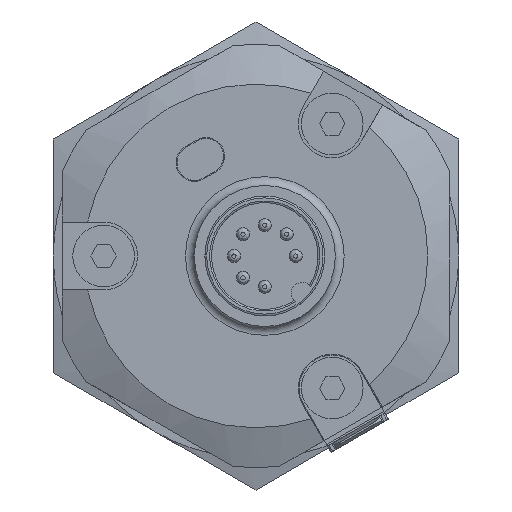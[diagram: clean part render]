
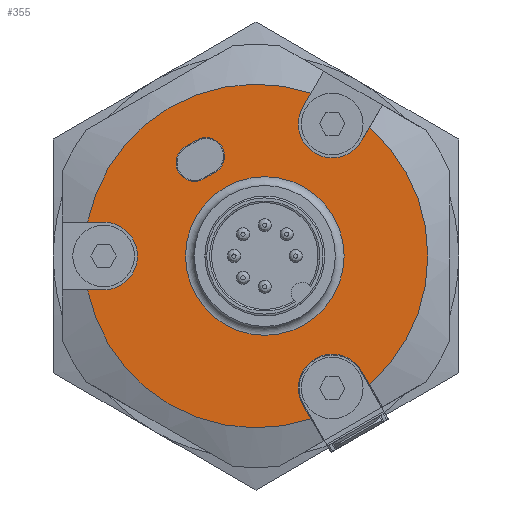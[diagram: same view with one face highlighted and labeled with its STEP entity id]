
A CAD part, left-side view. The second image highlights one B-rep face of the part: STEP entity #355.
In plain terms, the highlighted planar face has unit normal (-1, 0, 0).
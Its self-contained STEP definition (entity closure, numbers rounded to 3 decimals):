
#355 = ADVANCED_FACE( '', ( #789, #790, #791 ), #792, .F. );
#789 = FACE_OUTER_BOUND( '', #1469, .T. );
#790 = FACE_BOUND( '', #1470, .T. );
#791 = FACE_BOUND( '', #1471, .T. );
#792 = PLANE( '', #1472 );
#1469 = EDGE_LOOP( '', ( #2843, #2844, #2845, #2846, #2847, #2848, #2849, #2850, #2851, #2852, #2853, #2854 ) );
#1470 = EDGE_LOOP( '', ( #2855 ) );
#1471 = EDGE_LOOP( '', ( #2856, #2857, #2858, #2859 ) );
#1472 = AXIS2_PLACEMENT_3D( '', #2860, #2861, #2862 );
#2843 = ORIENTED_EDGE( '', *, *, #3200, .T. );
#2844 = ORIENTED_EDGE( '', *, *, #3204, .T. );
#2845 = ORIENTED_EDGE( '', *, *, #3309, .F. );
#2846 = ORIENTED_EDGE( '', *, *, #2911, .T. );
#2847 = ORIENTED_EDGE( '', *, *, #2905, .T. );
#2848 = ORIENTED_EDGE( '', *, *, #2901, .T. );
#2849 = ORIENTED_EDGE( '', *, *, #3310, .F. );
#2850 = ORIENTED_EDGE( '', *, *, #2922, .T. );
#2851 = ORIENTED_EDGE( '', *, *, #2917, .T. );
#2852 = ORIENTED_EDGE( '', *, *, #3207, .T. );
#2853 = ORIENTED_EDGE( '', *, *, #3308, .F. );
#2854 = ORIENTED_EDGE( '', *, *, #3030, .T. );
#2855 = ORIENTED_EDGE( '', *, *, #3277, .T. );
#2856 = ORIENTED_EDGE( '', *, *, #3246, .T. );
#2857 = ORIENTED_EDGE( '', *, *, #3250, .T. );
#2858 = ORIENTED_EDGE( '', *, *, #3253, .T. );
#2859 = ORIENTED_EDGE( '', *, *, #3256, .T. );
#2860 = CARTESIAN_POINT( '', ( -68., 0., 0. ) );
#2861 = DIRECTION( '', ( 1., 0., 0. ) );
#2862 = DIRECTION( '', ( 0., 0., -1. ) );
#2901 = EDGE_CURVE( '', #3338, #3336, #3339, .T. );
#2905 = EDGE_CURVE( '', #3345, #3338, #3346, .T. );
#2911 = EDGE_CURVE( '', #3350, #3345, #3356, .T. );
#2917 = EDGE_CURVE( '', #3367, #3368, #3369, .T. );
#2922 = EDGE_CURVE( '', #3372, #3367, #3376, .T. );
#3030 = EDGE_CURVE( '', #3568, #3566, #3569, .T. );
#3200 = EDGE_CURVE( '', #3566, #3839, #3840, .T. );
#3204 = EDGE_CURVE( '', #3839, #3844, #3846, .T. );
#3207 = EDGE_CURVE( '', #3368, #3848, #3850, .T. );
#3246 = EDGE_CURVE( '', #3909, #3910, #3911, .T. );
#3250 = EDGE_CURVE( '', #3910, #3917, #3918, .T. );
#3253 = EDGE_CURVE( '', #3917, #3922, #3923, .T. );
#3256 = EDGE_CURVE( '', #3922, #3909, #3927, .T. );
#3277 = EDGE_CURVE( '', #3964, #3964, #3965, .T. );
#3308 = EDGE_CURVE( '', #3568, #3848, #4020, .T. );
#3309 = EDGE_CURVE( '', #3350, #3844, #4021, .T. );
#3310 = EDGE_CURVE( '', #3372, #3336, #4022, .T. );
#3336 = VERTEX_POINT( '', #4068 );
#3338 = VERTEX_POINT( '', #4073 );
#3339 = LINE( '', #4074, #4075 );
#3345 = VERTEX_POINT( '', #4084 );
#3346 = CIRCLE( '', #4085, 3.85 );
#3350 = VERTEX_POINT( '', #4090 );
#3356 = LINE( '', #4101, #4102 );
#3367 = VERTEX_POINT( '', #4116 );
#3368 = VERTEX_POINT( '', #4117 );
#3369 = CIRCLE( '', #4118, 3.85 );
#3372 = VERTEX_POINT( '', #4123 );
#3376 = LINE( '', #4131, #4132 );
#3566 = VERTEX_POINT( '', #4427 );
#3568 = VERTEX_POINT( '', #4430 );
#3569 = LINE( '', #4431, #4432 );
#3839 = VERTEX_POINT( '', #4921 );
#3840 = CIRCLE( '', #4922, 3.85 );
#3844 = VERTEX_POINT( '', #4927 );
#3846 = LINE( '', #4932, #4933 );
#3848 = VERTEX_POINT( '', #4936 );
#3850 = LINE( '', #4941, #4942 );
#3909 = VERTEX_POINT( '', #5037 );
#3910 = VERTEX_POINT( '', #5038 );
#3911 = LINE( '', #5039, #5040 );
#3917 = VERTEX_POINT( '', #5049 );
#3918 = CIRCLE( '', #5050, 2.1 );
#3922 = VERTEX_POINT( '', #5055 );
#3923 = LINE( '', #5056, #5057 );
#3927 = CIRCLE( '', #5063, 2.1 );
#3964 = VERTEX_POINT( '', #5102 );
#3965 = CIRCLE( '', #5103, 9. );
#4020 = CIRCLE( '', #5164, 19.5 );
#4021 = CIRCLE( '', #5165, 19.5 );
#4022 = CIRCLE( '', #5166, 19.5 );
#4068 = CARTESIAN_POINT( '', ( -68., -12.892, -14.63 ) );
#4073 = CARTESIAN_POINT( '', ( -68., -11.984, -13.057 ) );
#4074 = CARTESIAN_POINT( '', ( -68., -11.984, -13.057 ) );
#4075 = VECTOR( '', #5185, 1000. );
#4084 = CARTESIAN_POINT( '', ( -68., -5.316, -16.907 ) );
#4085 = AXIS2_PLACEMENT_3D( '', #5189, #5190, #5191 );
#4090 = CARTESIAN_POINT( '', ( -68., -6.224, -18.48 ) );
#4101 = CARTESIAN_POINT( '', ( -68., -7.916, -21.411 ) );
#4102 = VECTOR( '', #5198, 1000. );
#4116 = CARTESIAN_POINT( '', ( -68., -11.984, 13.057 ) );
#4117 = CARTESIAN_POINT( '', ( -68., -5.316, 16.907 ) );
#4118 = AXIS2_PLACEMENT_3D( '', #5208, #5209, #5210 );
#4123 = CARTESIAN_POINT( '', ( -68., -12.892, 14.63 ) );
#4131 = CARTESIAN_POINT( '', ( -68., -14.584, 17.561 ) );
#4132 = VECTOR( '', #5214, 1000. );
#4427 = CARTESIAN_POINT( '', ( -68., 17.3, 3.85 ) );
#4430 = CARTESIAN_POINT( '', ( -68., 19.116, 3.85 ) );
#4431 = CARTESIAN_POINT( '', ( -68., 22.5, 3.85 ) );
#4432 = VECTOR( '', #5373, 1000. );
#4921 = CARTESIAN_POINT( '', ( -68., 17.3, -3.85 ) );
#4922 = AXIS2_PLACEMENT_3D( '', #5624, #5625, #5626 );
#4927 = CARTESIAN_POINT( '', ( -68., 19.116, -3.85 ) );
#4932 = CARTESIAN_POINT( '', ( -68., 17.3, -3.85 ) );
#4933 = VECTOR( '', #5631, 1000. );
#4936 = CARTESIAN_POINT( '', ( -68., -6.224, 18.48 ) );
#4941 = CARTESIAN_POINT( '', ( -68., -5.316, 16.907 ) );
#4942 = VECTOR( '', #5633, 1000. );
#5037 = CARTESIAN_POINT( '', ( -68., 8.025, 12.399 ) );
#5038 = CARTESIAN_POINT( '', ( -68., 6.725, 13.149 ) );
#5039 = CARTESIAN_POINT( '', ( -68., 8.025, 12.399 ) );
#5040 = VECTOR( '', #5676, 1000. );
#5049 = CARTESIAN_POINT( '', ( -68., 4.625, 9.512 ) );
#5050 = AXIS2_PLACEMENT_3D( '', #5680, #5681, #5682 );
#5055 = CARTESIAN_POINT( '', ( -68., 5.925, 8.762 ) );
#5056 = CARTESIAN_POINT( '', ( -68., 4.625, 9.512 ) );
#5057 = VECTOR( '', #5687, 1000. );
#5063 = AXIS2_PLACEMENT_3D( '', #5690, #5691, #5692 );
#5102 = CARTESIAN_POINT( '', ( -68., -1., -9. ) );
#5103 = AXIS2_PLACEMENT_3D( '', #5749, #5750, #5751 );
#5164 = AXIS2_PLACEMENT_3D( '', #5827, #5828, #5829 );
#5165 = AXIS2_PLACEMENT_3D( '', #5830, #5831, #5832 );
#5166 = AXIS2_PLACEMENT_3D( '', #5833, #5834, #5835 );
#5185 = DIRECTION( '', ( 0., -0.5, -0.866 ) );
#5189 = CARTESIAN_POINT( '', ( -68., -8.65, -14.982 ) );
#5190 = DIRECTION( '', ( 1., 0., 0. ) );
#5191 = DIRECTION( '', ( 0., 0., -1. ) );
#5198 = DIRECTION( '', ( 0., 0.5, 0.866 ) );
#5208 = CARTESIAN_POINT( '', ( -68., -8.65, 14.982 ) );
#5209 = DIRECTION( '', ( 1., 0., 0. ) );
#5210 = DIRECTION( '', ( 0., 0., -1. ) );
#5214 = DIRECTION( '', ( 0., 0.5, -0.866 ) );
#5373 = DIRECTION( '', ( 0., -1., 0. ) );
#5624 = CARTESIAN_POINT( '', ( -68., 17.3, 0. ) );
#5625 = DIRECTION( '', ( 1., 0., 0. ) );
#5626 = DIRECTION( '', ( 0., 0., -1. ) );
#5631 = DIRECTION( '', ( 0., 1., 0. ) );
#5633 = DIRECTION( '', ( 0., -0.5, 0.866 ) );
#5676 = DIRECTION( '', ( 0., -0.866, 0.5 ) );
#5680 = CARTESIAN_POINT( '', ( -68., 5.675, 11.33 ) );
#5681 = DIRECTION( '', ( 1., 0., 0. ) );
#5682 = DIRECTION( '', ( 0., 0., -1. ) );
#5687 = DIRECTION( '', ( 0., 0.866, -0.5 ) );
#5690 = CARTESIAN_POINT( '', ( -68., 6.975, 10.58 ) );
#5691 = DIRECTION( '', ( 1., 0., 0. ) );
#5692 = DIRECTION( '', ( 0., 0., -1. ) );
#5749 = CARTESIAN_POINT( '', ( -68., -1., 0. ) );
#5750 = DIRECTION( '', ( 1., 0., 0. ) );
#5751 = DIRECTION( '', ( 0., 0., -1. ) );
#5827 = CARTESIAN_POINT( '', ( -68., 0., 0. ) );
#5828 = DIRECTION( '', ( 1., 0., 0. ) );
#5829 = DIRECTION( '', ( 0., 0., -1. ) );
#5830 = CARTESIAN_POINT( '', ( -68., 0., 0. ) );
#5831 = DIRECTION( '', ( 1., 0., 0. ) );
#5832 = DIRECTION( '', ( 0., 0., -1. ) );
#5833 = CARTESIAN_POINT( '', ( -68., 0., 0. ) );
#5834 = DIRECTION( '', ( 1., 0., 0. ) );
#5835 = DIRECTION( '', ( 0., 0., -1. ) );
